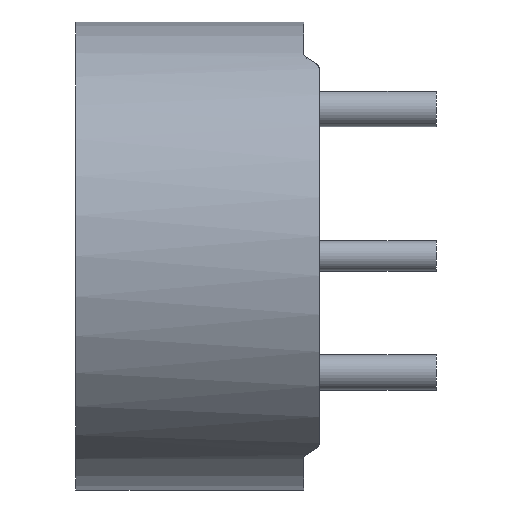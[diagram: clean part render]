
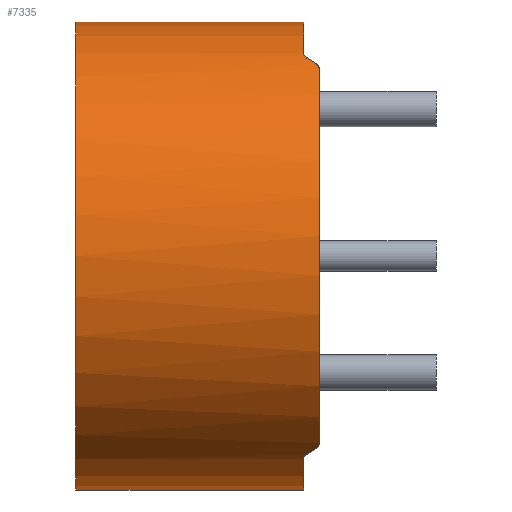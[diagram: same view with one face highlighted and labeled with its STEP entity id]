
A CAD part, left-side view. The second image highlights one B-rep face of the part: STEP entity #7335.
In plain terms, the highlighted cylindrical face has radius 19.05 mm (diameter 38.1 mm), a partial arc.
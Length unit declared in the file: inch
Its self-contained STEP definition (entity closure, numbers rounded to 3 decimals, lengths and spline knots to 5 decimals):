
#10 = AXIS2_PLACEMENT_3D ( 'NONE', #7477, #2623, #1292 ) ;
#47 = CARTESIAN_POINT ( 'NONE',  ( 0., -0.34, -0.75 ) ) ;
#64 = ORIENTED_EDGE ( 'NONE', *, *, #8169, .T. ) ;
#143 = ORIENTED_EDGE ( 'NONE', *, *, #1388, .T. ) ;
#195 = EDGE_CURVE ( 'NONE', #665, #4516, #6692, .T. ) ;
#218 = DIRECTION ( 'NONE',  ( 0., 0., 1. ) ) ;
#435 = CARTESIAN_POINT ( 'NONE',  ( -0.41809, -0.37059, -0.62279 ) ) ;
#438 =( BOUNDED_CURVE ( )  B_SPLINE_CURVE ( 3, ( #6752, #8770, #1895, #2486 ),
 .UNSPECIFIED., .F., .F. ) 
 B_SPLINE_CURVE_WITH_KNOTS ( ( 4, 4 ),
 ( 0.96232, 1.0141 ),
 .UNSPECIFIED. ) 
 CURVE ( )  GEOMETRIC_REPRESENTATION_ITEM ( )  RATIONAL_B_SPLINE_CURVE ( ( 1., 1., 1., 1. ) ) 
 REPRESENTATION_ITEM ( '' )  );
#472 = CARTESIAN_POINT ( 'NONE',  ( -0.44242, -0.38931, 0.60563 ) ) ;
#518 = ORIENTED_EDGE ( 'NONE', *, *, #195, .T. ) ;
#572 = CARTESIAN_POINT ( 'NONE',  ( -0.39629, -0.34879, -0.63675 ) ) ;
#607 = AXIS2_PLACEMENT_3D ( 'NONE', #5418, #1938, #4726 ) ;
#621 = CARTESIAN_POINT ( 'NONE',  ( 0., -0.39, 0. ) ) ;
#665 = VERTEX_POINT ( 'NONE', #5754 ) ;
#925 = EDGE_CURVE ( 'NONE', #4516, #3972, #1783, .T. ) ;
#1158 = FACE_OUTER_BOUND ( 'NONE', #8670, .T. ) ;
#1292 = DIRECTION ( 'NONE',  ( 0., 0., 1. ) ) ;
#1337 = CARTESIAN_POINT ( 'NONE',  ( -0.42871, -0.38121, 0.61539 ) ) ;
#1388 = EDGE_CURVE ( 'NONE', #3024, #6510, #4876, .T. ) ;
#1414 = VECTOR ( 'NONE', #2888, 39.37008 ) ;
#1504 = EDGE_CURVE ( 'NONE', #6136, #4811, #3522, .T. ) ;
#1658 = B_SPLINE_CURVE_WITH_KNOTS ( 'NONE', 3,
 ( #3093, #8924, #7619, #2637, #9050, #572 ),
 .UNSPECIFIED., .F., .F.,
 ( 4, 2, 4 ),
 ( 0., 0.00034, 0.00067 ),
 .UNSPECIFIED. ) ;
#1714 = DIRECTION ( 'NONE',  ( 0., -1., 0. ) ) ;
#1783 = CIRCLE ( 'NONE', #607, 0.75 ) ;
#1792 = CARTESIAN_POINT ( 'NONE',  ( -0.37507, -0.34, 0.64948 ) ) ;
#1883 = CARTESIAN_POINT ( 'NONE',  ( -0.39629, -0.34879, 0.63675 ) ) ;
#1895 = CARTESIAN_POINT ( 'NONE',  ( -0.40728, -0.35978, 0.62991 ) ) ;
#1925 = VERTEX_POINT ( 'NONE', #1337 ) ;
#1938 = DIRECTION ( 'NONE',  ( 0., 1., 0. ) ) ;
#1942 = CARTESIAN_POINT ( 'NONE',  ( 0., 0.39, 0. ) ) ;
#1975 = VERTEX_POINT ( 'NONE', #47 ) ;
#2091 = CARTESIAN_POINT ( 'NONE',  ( 0., -0.34, 0.75 ) ) ;
#2282 = EDGE_CURVE ( 'NONE', #1975, #7286, #7922, .T. ) ;
#2372 = CARTESIAN_POINT ( 'NONE',  ( -0.44993, -0.39, 0.60006 ) ) ;
#2486 = CARTESIAN_POINT ( 'NONE',  ( -0.39629, -0.34879, 0.63675 ) ) ;
#2623 = DIRECTION ( 'NONE',  ( 0., 1., 0. ) ) ;
#2637 = CARTESIAN_POINT ( 'NONE',  ( -0.38998, -0.34368, -0.64065 ) ) ;
#2702 = CARTESIAN_POINT ( 'NONE',  ( -0.39045, -0.34295, 0.64039 ) ) ;
#2718 = CARTESIAN_POINT ( 'NONE',  ( -0.43173, -0.38423, 0.61329 ) ) ;
#2888 = DIRECTION ( 'NONE',  ( 0., -1., 0. ) ) ;
#2962 = EDGE_CURVE ( 'NONE', #3211, #6912, #4050, .T. ) ;
#3024 = VERTEX_POINT ( 'NONE', #5663 ) ;
#3093 = CARTESIAN_POINT ( 'NONE',  ( -0.37507, -0.34, -0.64948 ) ) ;
#3173 = DIRECTION ( 'NONE',  ( 0., -1., 0. ) ) ;
#3211 = VERTEX_POINT ( 'NONE', #6336 ) ;
#3246 = AXIS2_PLACEMENT_3D ( 'NONE', #7964, #5074, #218 ) ;
#3293 = EDGE_CURVE ( 'NONE', #6136, #1975, #6710, .T. ) ;
#3317 = AXIS2_PLACEMENT_3D ( 'NONE', #621, #3415, #8192 ) ;
#3403 = AXIS2_PLACEMENT_3D ( 'NONE', #1942, #3173, #7479 ) ;
#3415 = DIRECTION ( 'NONE',  ( 0., 1., 0. ) ) ;
#3463 = EDGE_CURVE ( 'NONE', #6912, #1925, #5968, .T. ) ;
#3487 = CARTESIAN_POINT ( 'NONE',  ( 0., 0.39, 0.75 ) ) ;
#3522 = CIRCLE ( 'NONE', #3246, 0.75 ) ;
#3571 = EDGE_CURVE ( 'NONE', #4811, #3972, #6242, .T. ) ;
#3660 = CARTESIAN_POINT ( 'NONE',  ( -0.43472, -0.38722, -0.6112 ) ) ;
#3725 = CARTESIAN_POINT ( 'NONE',  ( 0., 0.39, -0.75 ) ) ;
#3972 = VERTEX_POINT ( 'NONE', #2091 ) ;
#4016 = ORIENTED_EDGE ( 'NONE', *, *, #5746, .T. ) ;
#4034 = CARTESIAN_POINT ( 'NONE',  ( -0.37507, -0.34, 0.64948 ) ) ;
#4050 = CIRCLE ( 'NONE', #3317, 0.75 ) ;
#4105 = ORIENTED_EDGE ( 'NONE', *, *, #2962, .T. ) ;
#4213 = CARTESIAN_POINT ( 'NONE',  ( -0.42871, -0.38121, -0.61539 ) ) ;
#4255 = CARTESIAN_POINT ( 'NONE',  ( -0.44993, -0.39, -0.60006 ) ) ;
#4516 = VERTEX_POINT ( 'NONE', #1792 ) ;
#4544 = CARTESIAN_POINT ( 'NONE',  ( -0.37507, -0.34, -0.64948 ) ) ;
#4569 = ORIENTED_EDGE ( 'NONE', *, *, #3571, .F. ) ;
#4700 = CARTESIAN_POINT ( 'NONE',  ( -0.40728, -0.35978, -0.62991 ) ) ;
#4726 = DIRECTION ( 'NONE',  ( 0., 0., 1. ) ) ;
#4811 = VERTEX_POINT ( 'NONE', #5738 ) ;
#4876 =( BOUNDED_CURVE ( )  B_SPLINE_CURVE ( 3, ( #7497, #4700, #435, #5940 ),
 .UNSPECIFIED., .F., .F. ) 
 B_SPLINE_CURVE_WITH_KNOTS ( ( 4, 4 ),
 ( 5.26908, 5.32086 ),
 .UNSPECIFIED. ) 
 CURVE ( )  GEOMETRIC_REPRESENTATION_ITEM ( )  RATIONAL_B_SPLINE_CURVE ( ( 1., 1., 1., 1. ) ) 
 REPRESENTATION_ITEM ( '' )  );
#5074 = DIRECTION ( 'NONE',  ( 0., 1., 0. ) ) ;
#5260 = ORIENTED_EDGE ( 'NONE', *, *, #3293, .T. ) ;
#5360 = CARTESIAN_POINT ( 'NONE',  ( -0.38287, -0.34, 0.64498 ) ) ;
#5418 = CARTESIAN_POINT ( 'NONE',  ( 0., -0.34, 0. ) ) ;
#5601 = CARTESIAN_POINT ( 'NONE',  ( 0., 0.39, -0.75 ) ) ;
#5663 = CARTESIAN_POINT ( 'NONE',  ( -0.39629, -0.34879, -0.63675 ) ) ;
#5729 = ORIENTED_EDGE ( 'NONE', *, *, #925, .T. ) ;
#5738 = CARTESIAN_POINT ( 'NONE',  ( 0., 0.39, 0.75 ) ) ;
#5746 = EDGE_CURVE ( 'NONE', #6510, #3211, #7583, .T. ) ;
#5754 = CARTESIAN_POINT ( 'NONE',  ( -0.39629, -0.34879, 0.63675 ) ) ;
#5940 = CARTESIAN_POINT ( 'NONE',  ( -0.42871, -0.38121, -0.61539 ) ) ;
#5951 = ORIENTED_EDGE ( 'NONE', *, *, #2282, .T. ) ;
#5968 = B_SPLINE_CURVE_WITH_KNOTS ( 'NONE', 3,
 ( #6887, #8175, #472, #6202, #2718, #8311 ),
 .UNSPECIFIED., .F., .F.,
 ( 4, 2, 4 ),
 ( 0., 0.00036, 0.00071 ),
 .UNSPECIFIED. ) ;
#5971 = CYLINDRICAL_SURFACE ( 'NONE', #3403, 0.75 ) ;
#6136 = VERTEX_POINT ( 'NONE', #5601 ) ;
#6202 = CARTESIAN_POINT ( 'NONE',  ( -0.43514, -0.3864, 0.61088 ) ) ;
#6242 = LINE ( 'NONE', #3487, #1414 ) ;
#6336 = CARTESIAN_POINT ( 'NONE',  ( -0.44993, -0.39, -0.60006 ) ) ;
#6363 = EDGE_CURVE ( 'NONE', #1925, #665, #438, .T. ) ;
#6367 = ORIENTED_EDGE ( 'NONE', *, *, #1504, .F. ) ;
#6458 = CARTESIAN_POINT ( 'NONE',  ( -0.44237, -0.39, -0.60572 ) ) ;
#6510 = VERTEX_POINT ( 'NONE', #7144 ) ;
#6692 = B_SPLINE_CURVE_WITH_KNOTS ( 'NONE', 3,
 ( #1883, #2702, #5360, #4034 ),
 .UNSPECIFIED., .F., .F.,
 ( 4, 4 ),
 ( 0., 0.00068 ),
 .UNSPECIFIED. ) ;
#6710 = LINE ( 'NONE', #3725, #6969 ) ;
#6752 = CARTESIAN_POINT ( 'NONE',  ( -0.42871, -0.38121, 0.61539 ) ) ;
#6887 = CARTESIAN_POINT ( 'NONE',  ( -0.44993, -0.39, 0.60006 ) ) ;
#6912 = VERTEX_POINT ( 'NONE', #2372 ) ;
#6969 = VECTOR ( 'NONE', #1714, 39.37008 ) ;
#7144 = CARTESIAN_POINT ( 'NONE',  ( -0.42871, -0.38121, -0.61539 ) ) ;
#7286 = VERTEX_POINT ( 'NONE', #4544 ) ;
#7335 = ADVANCED_FACE ( 'NONE', ( #1158 ), #5971, .T. ) ;
#7477 = CARTESIAN_POINT ( 'NONE',  ( 0., -0.34, 0. ) ) ;
#7479 = DIRECTION ( 'NONE',  ( 0., 0., -1. ) ) ;
#7497 = CARTESIAN_POINT ( 'NONE',  ( -0.39629, -0.34879, -0.63675 ) ) ;
#7583 = B_SPLINE_CURVE_WITH_KNOTS ( 'NONE', 3,
 ( #4213, #3660, #6458, #4255 ),
 .UNSPECIFIED., .F., .F.,
 ( 4, 4 ),
 ( 0., 0.00071 ),
 .UNSPECIFIED. ) ;
#7619 = CARTESIAN_POINT ( 'NONE',  ( -0.38274, -0.34073, -0.645 ) ) ;
#7922 = CIRCLE ( 'NONE', #10, 0.75 ) ;
#7964 = CARTESIAN_POINT ( 'NONE',  ( 0., 0.39, 0. ) ) ;
#8169 = EDGE_CURVE ( 'NONE', #7286, #3024, #1658, .T. ) ;
#8175 = CARTESIAN_POINT ( 'NONE',  ( -0.44614, -0.39, 0.60289 ) ) ;
#8192 = DIRECTION ( 'NONE',  ( 0., 0., 1. ) ) ;
#8240 = ORIENTED_EDGE ( 'NONE', *, *, #6363, .T. ) ;
#8311 = CARTESIAN_POINT ( 'NONE',  ( -0.42871, -0.38121, 0.61539 ) ) ;
#8324 = ORIENTED_EDGE ( 'NONE', *, *, #3463, .T. ) ;
#8670 = EDGE_LOOP ( 'NONE', ( #4569, #6367, #5260, #5951, #64, #143, #4016, #4105, #8324, #8240, #518, #5729 ) ) ;
#8770 = CARTESIAN_POINT ( 'NONE',  ( -0.41809, -0.37059, 0.62279 ) ) ;
#8924 = CARTESIAN_POINT ( 'NONE',  ( -0.37898, -0.34, -0.64722 ) ) ;
#9050 = CARTESIAN_POINT ( 'NONE',  ( -0.39336, -0.34586, -0.63857 ) ) ;
